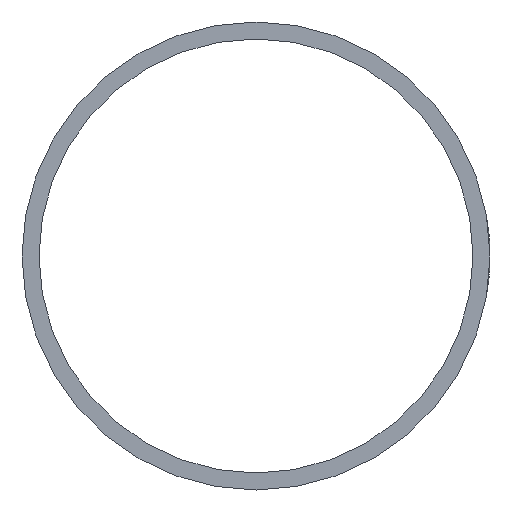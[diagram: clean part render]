
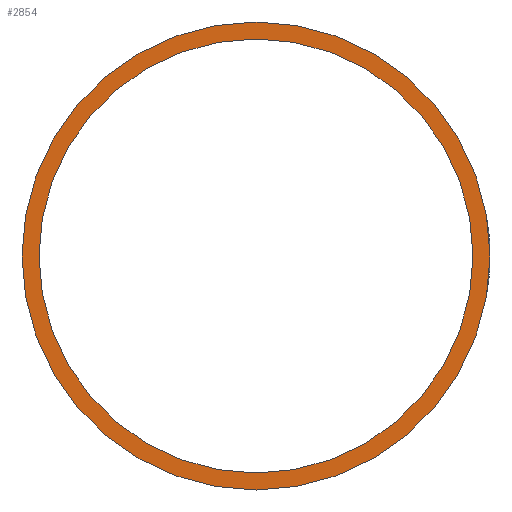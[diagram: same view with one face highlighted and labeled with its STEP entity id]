
A CAD part, left-side view. The second image highlights one B-rep face of the part: STEP entity #2854.
In plain terms, the highlighted planar face has unit normal (-1, 0, 0).
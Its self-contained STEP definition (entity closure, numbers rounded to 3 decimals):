
#194=ORIENTED_EDGE('',*,*,#250,.T.);
#195=ORIENTED_EDGE('',*,*,#251,.T.);
#226=CIRCLE('',#2839,27.5);
#227=CIRCLE('',#2840,25.5);
#234=VERTEX_POINT('',#327);
#235=VERTEX_POINT('',#329);
#250=EDGE_CURVE('',#234,#234,#226,.T.);
#251=EDGE_CURVE('',#235,#235,#227,.T.);
#266=EDGE_LOOP('',(#194));
#267=EDGE_LOOP('',(#195));
#282=FACE_BOUND('',#266,.T.);
#283=FACE_BOUND('',#267,.T.);
#298=DIRECTION('',(-1.,0.,0.));
#299=DIRECTION('',(0.,1.,0.));
#300=DIRECTION('',(-1.,0.,0.));
#301=DIRECTION('',(0.,0.,27.5));
#302=DIRECTION('',(1.,0.,0.));
#303=DIRECTION('',(0.,0.,25.5));
#326=CARTESIAN_POINT('',(0.,0.,27.5));
#327=CARTESIAN_POINT('',(0.,0.,27.5));
#328=CARTESIAN_POINT('',(0.,0.,0.));
#329=CARTESIAN_POINT('',(0.,0.,25.5));
#330=CARTESIAN_POINT('',(0.,0.,0.));
#2838=AXIS2_PLACEMENT_3D('',#326,#298,#299);
#2839=AXIS2_PLACEMENT_3D('',#328,#300,#301);
#2840=AXIS2_PLACEMENT_3D('',#330,#302,#303);
#2852=PLANE('',#2838);
#2854=ADVANCED_FACE('',(#282,#283),#2852,.T.);
